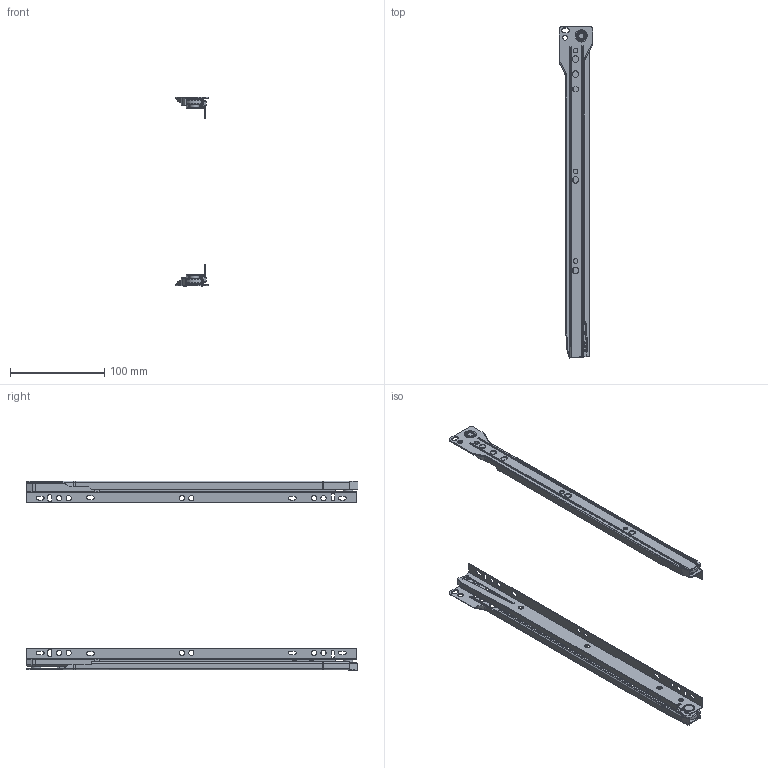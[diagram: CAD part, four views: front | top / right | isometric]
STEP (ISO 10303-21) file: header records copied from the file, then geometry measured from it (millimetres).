
FILE_DESCRIPTION(/* description */ (''),/* implementation_level */ '2;1');
FILE_NAME(/* name */ 'C:\Users\dmitruk\Documents\WORK\НАПРАВЛЯЮЩИЕ\Роликовые\Направляющие роликовая AKS 0.9 mm\Направляющие роликовая AKS 0.9 mm-350.stp',/* time_stamp */ '2022-07-29T15:04:52+03:00',/* author */ ('dmitruk'),/* organization */ (''),/* preprocessor_version */ 'ST-DEVELOPER v16.5',/* originating_system */ 'Autodesk Inventor 2017',/* authorisation */ '');
FILE_SCHEMA (('AUTOMOTIVE_DESIGN { 1 0 10303 214 3 1 1 }'));
Length unit declared in the file: millimetre
Products named in the file (5): Направляющие 
роликовая AKS 0.9 mm; rol_cr_09; rol_cl_09-01; rol_dr_09; rol_dl_09
Assembly tree (4 placements, depth 2):
  Направляющие 
роликовая AKS 0.9 mm
    rol_cr_09
    rol_cl_09-01
    rol_dr_09
    rol_dl_09
Bounding box: 35 x 351.38 x 201 mm (x, y, z)
Volume: 54329.1 mm3; surface area: 107734.4 mm2
Topology: 4 solids, 6 shells, 538 faces, 1391 edges, 872 vertices
Faces by surface type: plane 262, cylinder 201, cone 28, bspline 23, torus 22, sphere 2
Full cylindrical faces by diameter (mm): 5 x8, 5.5 x20, 6 x2, 6.1 x3, 6.8 x4, 7.8 x1, 9 x4, 10 x4, 14 x4, 19 x4
Entity records: 16872 total; most frequent: CARTESIAN_POINT 3199, DIRECTION 2819, ORIENTED_EDGE 2600, EDGE_CURVE 1294, AXIS2_PLACEMENT_3D 1015, VERTEX_POINT 872, LINE 789, VECTOR 789
